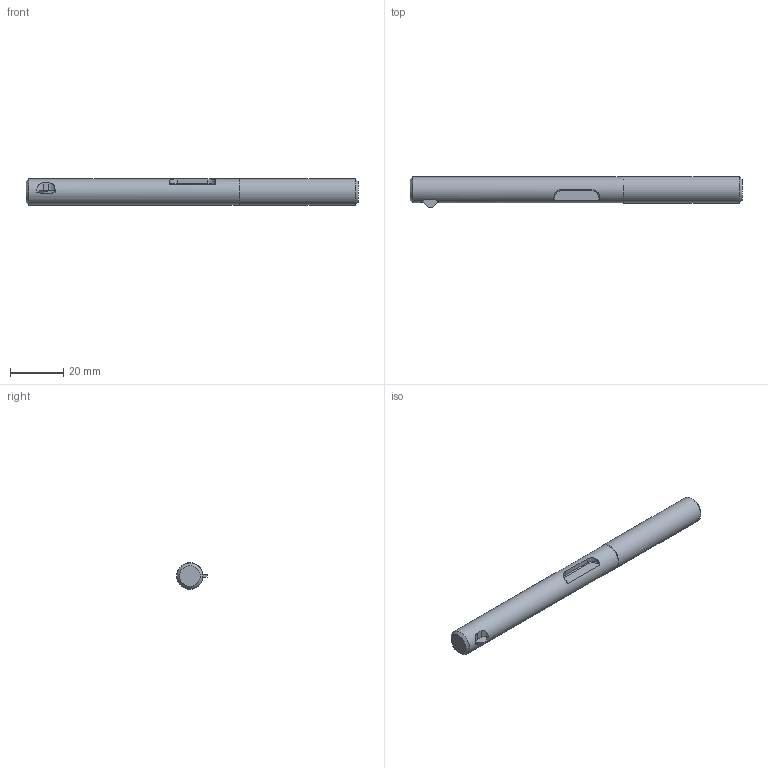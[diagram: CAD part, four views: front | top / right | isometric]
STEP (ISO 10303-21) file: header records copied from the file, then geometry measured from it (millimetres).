
FILE_DESCRIPTION(/* description */ (''),/* implementation_level */ '2;1');
FILE_NAME(/* name */ 'X:\EDF\EDF-OPEN\EDF-865\מודל מעודכן\U burr\קבצי STEP\Ass-Uburr Ø10mm_Simplify_1.stp',/* time_stamp */ '2023-03-05T11:23:15+02:00',/* author */ ('adva'),/* organization */ (''),/* preprocessor_version */ 'ST-DEVELOPER v18.1',/* originating_system */ 'Autodesk Inventor 2022',/* authorisation */ '');
FILE_SCHEMA (('CONFIG_CONTROL_DESIGN'));
Length unit declared in the file: millimetre
Products named in the file (1): Ass-Uburr Ø10mm_Simplify_1
Bounding box: 125 x 11.64 x 10 mm (x, y, z)
Volume: 9434.6 mm3; surface area: 4039.1 mm2
Topology: 1 solids, 1 shells, 32 faces, 77 edges, 49 vertices
Faces by surface type: plane 16, cylinder 10, torus 3, cone 3
Full cylindrical faces by diameter (mm): 9.8 x1, 10 x1
Entity records: 1071 total; most frequent: CARTESIAN_POINT 225, DIRECTION 167, ORIENTED_EDGE 154, EDGE_CURVE 77, AXIS2_PLACEMENT_3D 63, VERTEX_POINT 49, LINE 41, VECTOR 41
